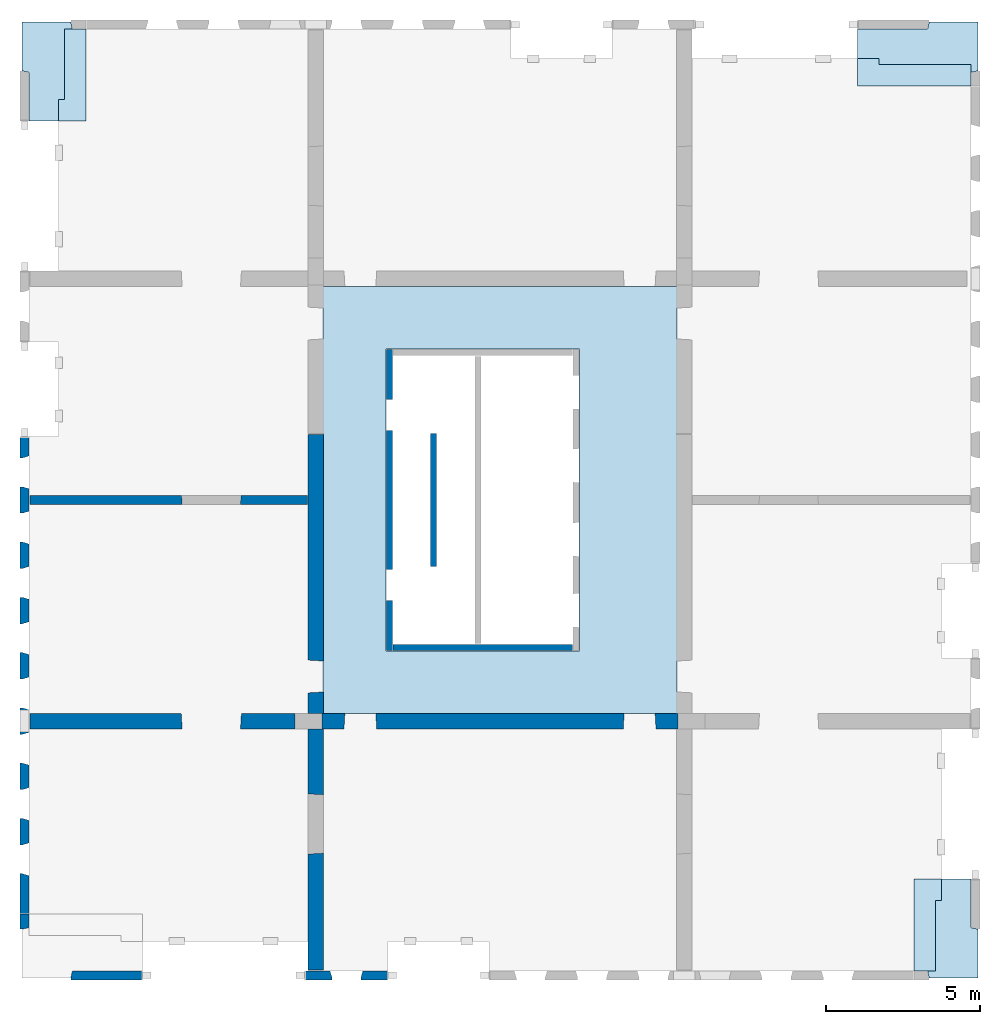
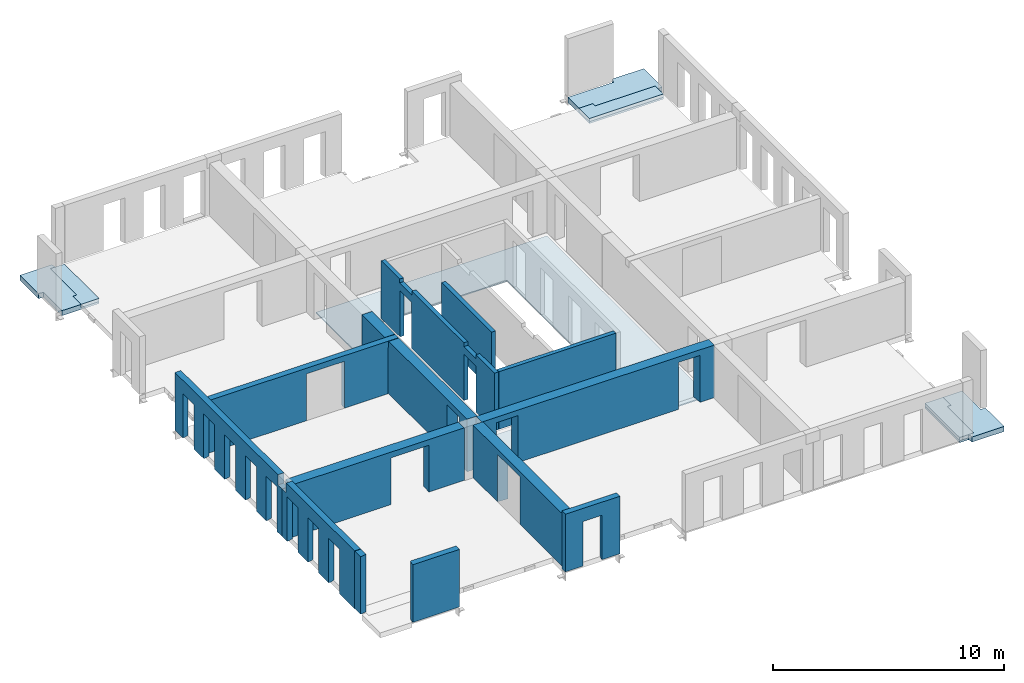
# One storey, part 2 of 4: 13 walls, 7 slabs, 26 openings.
"""IFC2X3 building model written with IfcOpenShell, lengths in millimetres."""

from ifc_helpers import new_model, entity, si_unit, converted_unit, derived_unit, direction, frame, frame_2d, origin, origin_2d_with_axis, place, context, subcontext, project, spatial, polyline, rectangle, outline, extrude, faceted_brep, material, layer, layer_set, layer_usage, type_object, element, save


model = new_model("IFC2X3")

# Units and contexts
model_context = context("Model", 3, precision=0.01, world=origin(), true_north=direction((6.12303176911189e-17, 1.0)))
body_context = subcontext(model_context, "Body", "Model", "MODEL_VIEW")
ifc_project = project(units=[si_unit("LENGTHUNIT", "METRE", prefix="MILLI"), si_unit("AREAUNIT", "SQUARE_METRE"), si_unit("VOLUMEUNIT", "CUBIC_METRE"), converted_unit("PLANEANGLEUNIT", "DEGREE", entity("IfcRatioMeasure", 0.0174532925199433), si_unit("PLANEANGLEUNIT", "RADIAN"), dimensions=[0, 0, 0, 0, 0, 0, 0]), si_unit("MASSUNIT", "GRAM", prefix="KILO"), derived_unit("MASSDENSITYUNIT", [(si_unit("MASSUNIT", "GRAM", prefix="KILO"), 1), (si_unit("LENGTHUNIT", "METRE"), -3)]), si_unit("TIMEUNIT", "SECOND"), si_unit("FREQUENCYUNIT", "HERTZ"), si_unit("THERMODYNAMICTEMPERATUREUNIT", "DEGREE_CELSIUS"), derived_unit("THERMALTRANSMITTANCEUNIT", [(si_unit("MASSUNIT", "GRAM", prefix="KILO"), 1), (si_unit("THERMODYNAMICTEMPERATUREUNIT", "KELVIN"), -1), (si_unit("TIMEUNIT", "SECOND"), -3)]), derived_unit("VOLUMETRICFLOWRATEUNIT", [(si_unit("LENGTHUNIT", "METRE"), 3), (si_unit("TIMEUNIT", "SECOND"), -1)]), si_unit("ELECTRICCURRENTUNIT", "AMPERE"), si_unit("ELECTRICVOLTAGEUNIT", "VOLT"), si_unit("POWERUNIT", "WATT"), si_unit("FORCEUNIT", "NEWTON", prefix="KILO"), si_unit("ILLUMINANCEUNIT", "LUX"), si_unit("LUMINOUSFLUXUNIT", "LUMEN"), si_unit("LUMINOUSINTENSITYUNIT", "CANDELA"), derived_unit("USERDEFINED", [(si_unit("MASSUNIT", "GRAM", prefix="KILO"), -1), (si_unit("LENGTHUNIT", "METRE"), -2), (si_unit("TIMEUNIT", "SECOND"), 3), (si_unit("LUMINOUSFLUXUNIT", "LUMEN"), 1)]), derived_unit("LINEARVELOCITYUNIT", [(si_unit("LENGTHUNIT", "METRE"), 1), (si_unit("TIMEUNIT", "SECOND"), -1)]), si_unit("PRESSUREUNIT", "PASCAL"), derived_unit("USERDEFINED", [(si_unit("LENGTHUNIT", "METRE"), -2), (si_unit("MASSUNIT", "GRAM", prefix="KILO"), 1), (si_unit("TIMEUNIT", "SECOND"), -2)])], contexts=[model_context])

# Site, building, storey
site_placement = place(None, origin())
site = spatial("IfcSite", under=ifc_project, at=site_placement, Name="Default", CompositionType="ELEMENT")
building_placement = place(site_placement, origin())
building = spatial("IfcBuilding", under=site, at=building_placement, Name="niet gebruiken", CompositionType="ELEMENT")
storey_placement = place(building_placement, frame((0.0, 0.0, 63900.0)))
storey = spatial("IfcBuildingStorey", under=building, at=storey_placement, Name="20 twintigste verdieping", CompositionType="ELEMENT", Elevation=63900.0000000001)

# Slabs
ifc_material_1 = material(Name="NLRS_f2_beton prefab")
ifc_layer_1 = layer(ifc_material_1, 270.0)
ifc_layer_set_1 = layer_set([ifc_layer_1], Name="Floor:NLRS_23.22_FL_beton prefab d=270 3D element_gen")
ifc_layer_usage_1 = layer_usage(ifc_layer_set_1, "AXIS3", "POSITIVE", 0.0)
slab_1_placement = place(storey_placement, origin())
element("IfcSlab", 1, at=slab_1_placement, inside=storey, material=ifc_layer_usage_1, Name="Floor:NLRS_23.22_FL_beton prefab d=270 3D element_gen", ObjectType="Floor:NLRS_23.22_FL_beton prefab d=270 3D element_gen", PredefinedType="LANDING", context=body_context, shape_type="SweptSolid", body=[
    extrude(outline(polyline([(-322.675940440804, -982.471394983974), (1267.47139498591, -982.471394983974), (1267.47139498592, 607.675940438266), (1034.47139498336, 655.152429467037), (1034.47139498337, 1100.5286050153), (-1955.52860501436, 1100.52860501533), (-1955.52860501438, -749.471394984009), (-370.152429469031, -749.471394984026), (-322.675940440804, -982.471394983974)])), frame((127169.471394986, 31795.5286050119, -90.0), z_axis=(0.0, 0.0, -1.0), x_axis=(0.0, 1.0, 0.0)), (0.0, 0.0, 1.0), 269.999999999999),
])
ifc_material_2 = material(Name="NLRS_f2_beton ihwg")
ifc_layer_2 = layer(ifc_material_2, 170.0)
ifc_layer_set_2 = layer_set([ifc_layer_2], Name="Floor:NLRS_23.21_FL_beton ihwg d=170_gen")
ifc_layer_usage_2 = layer_usage(ifc_layer_set_2, "AXIS3", "POSITIVE", 0.0)
slab_2_placement = place(storey_placement, origin())
element("IfcSlab", 2, at=slab_2_placement, inside=storey, material=ifc_layer_usage_2, Name="Floor:NLRS_23.21_FL_beton ihwg d=170_gen", ObjectType="Floor:NLRS_23.21_FL_beton ihwg d=170_gen", PredefinedType="FLOOR", context=body_context, shape_type="SweptSolid", body=[
    extrude(outline(polyline([(-1230.0, -366.666666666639), (-530.0, -366.666666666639), (-530.0, -166.66666666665), (1760.0, -166.666666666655), (1760.0, 533.333333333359), (-1230.0, 533.333333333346), (-1230.0, -366.666666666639)])), frame((127736.666666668, 31070.0, -90.0), z_axis=(0.0, 0.0, -1.0), x_axis=(0.0, 1.0, 0.0)), (0.0, 0.0, 1.0), 169.999999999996),
])
ifc_layer_usage_3 = layer_usage(ifc_layer_set_1, "AXIS3", "POSITIVE", 0.0)
slab_3_placement = place(storey_placement, origin())
element("IfcSlab", 3, at=slab_3_placement, inside=storey, material=ifc_layer_usage_3, Name="Floor:NLRS_23.22_FL_beton prefab d=270 3D element_gen", ObjectType="Floor:NLRS_23.22_FL_beton prefab d=270 3D element_gen", PredefinedType="LANDING", context=body_context, shape_type="SweptSolid", body=[
    extrude(outline(polyline([(-1034.47139498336, -1100.52860501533), (1955.52860501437, -1100.52860501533), (1955.52860501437, 749.471394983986), (370.152429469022, 749.471394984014), (322.675940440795, 982.471394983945), (-1267.47139498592, 982.471394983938), (-1267.47139498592, -607.675940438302), (-1034.47139498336, -655.152429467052), (-1034.47139498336, -1100.52860501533)])), frame((156330.528605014, 3204.47139498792, -90.0), z_axis=(0.0, 0.0, -1.0), x_axis=(0.0, 1.0, 0.0)), (0.0, 0.0, 1.0), 269.999999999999),
])
ifc_layer_usage_4 = layer_usage(ifc_layer_set_2, "AXIS3", "POSITIVE", 0.0)
slab_4_placement = place(storey_placement, origin())
element("IfcSlab", 4, at=slab_4_placement, inside=storey, material=ifc_layer_usage_4, Name="Floor:NLRS_23.21_FL_beton ihwg d=170_gen", ObjectType="Floor:NLRS_23.21_FL_beton ihwg d=170_gen", PredefinedType="FLOOR", context=body_context, shape_type="SweptSolid", body=[
    extrude(outline(polyline([(-1760.0, -533.33333333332), (1230.0, -533.33333333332), (1230.0, 366.666666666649), (530.0, 366.666666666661), (530.0, 166.666666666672), (-1760.0, 166.666666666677), (-1760.0, -533.33333333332)])), frame((155763.333333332, 3930.0, -90.0), z_axis=(0.0, 0.0, -1.0), x_axis=(0.0, 1.0, 0.0)), (0.0, 0.0, 1.0), 169.999999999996),
])
ifc_layer_usage_5 = layer_usage(ifc_layer_set_1, "AXIS3", "POSITIVE", 0.0)
slab_5_placement = place(storey_placement, origin())
element("IfcSlab", 5, at=slab_5_placement, inside=storey, material=ifc_layer_usage_5, Name="Floor:NLRS_23.22_FL_beton prefab d=270 3D element_gen", ObjectType="Floor:NLRS_23.22_FL_beton prefab d=270 3D element_gen", PredefinedType="LANDING", context=body_context, shape_type="SweptSolid", body=[
    extrude(outline(polyline([(-1100.52860501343, -2480.52860501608), (749.471394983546, -2480.52860501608), (749.471394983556, -195.152429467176), (982.471394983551, -147.675940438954), (982.471394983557, 1442.47139498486), (-607.675940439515, 1442.47139498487), (-655.152429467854, 1209.47139498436), (-1100.52860501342, 1209.47139498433), (-1100.52860501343, -2480.52860501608)])), frame((155870.528605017, 32080.5286050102, -90.0), z_axis=(0.0, 0.0, -1.0), x_axis=(0.0, 1.0, 0.0)), (0.0, 0.0, 1.0), 269.999999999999),
])
ifc_layer_usage_6 = layer_usage(ifc_layer_set_2, "AXIS3", "POSITIVE", 0.0)
slab_6_placement = place(storey_placement, origin())
element("IfcSlab", 6, at=slab_6_placement, inside=storey, material=ifc_layer_usage_6, Name="Floor:NLRS_23.21_FL_beton ihwg d=170_gen", ObjectType="Floor:NLRS_23.21_FL_beton ihwg d=170_gen", PredefinedType="FLOOR", context=body_context, shape_type="SweptSolid", body=[
    extrude(outline(polyline([(-533.333333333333, -1463.33333333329), (366.666666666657, -1463.33333333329), (366.666666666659, -763.333333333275), (166.66666666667, -763.333333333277), (166.666666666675, 2226.66666666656), (-533.333333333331, 2226.66666666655), (-533.333333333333, -1463.33333333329)])), frame((154853.333333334, 31513.3333333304, -90.0), z_axis=(0.0, 0.0, -1.0), x_axis=(0.0, 1.0, 0.0)), (0.0, 0.0, 1.0), 169.999999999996),
])

# Slab, opening
ifc_layer_3 = layer(ifc_material_1, 60.0)
ifc_layer_set_3 = layer_set([ifc_layer_3], Name="Floor:NLRS_23.21_FL_breedplaat d=60_gen")
ifc_layer_usage_7 = layer_usage(ifc_layer_set_3, "AXIS3", "POSITIVE", 0.0)
slab_7_placement = place(storey_placement, frame((135990.0, 10540.0, -320.0)))
slab_7 = element("IfcSlab", 7, at=slab_7_placement, inside=storey, material=ifc_layer_usage_7, Name="Floor:NLRS_23.21_FL_breedplaat d=60_gen", ObjectType="Floor:NLRS_23.21_FL_breedplaat d=60_gen", PredefinedType="FLOOR", context=body_context, shape_type="SweptSolid", body=[
    extrude(rectangle(XDim=13919.9999999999, YDim=11520.0, at=frame_2d((0.0, 0.0), x_axis=(0.0, -1.0))), frame((5760.0, 6960.0, 60.0), z_axis=(0.0, 0.0, -1.0), x_axis=(-1.0, 0.0, 0.0)), (0.0, 0.0, 1.0), 60.0000000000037),
])
opening_1_placement = place(slab_7_placement, frame((5200.0, 6960.0, 60.0)))
element("IfcOpeningElement", 8, at=opening_1_placement, cuts=slab_7, Name="Floor:NLRS_23.21_FL_breedplaat d=60_gen:2", ObjectType="Opening", context=body_context, shape_type="SweptSolid", body=[
    extrude(rectangle(XDim=9820.0, YDim=6299.99999999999, at=origin_2d_with_axis()), frame((0.0, 0.0, 0.0), z_axis=(0.0, 0.0, -1.0), x_axis=(0.0, -1.0, 0.0)), (0.0, 0.0, 1.0), 60.0000000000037),
])

# Wall, openings
ifc_layer_4 = layer(ifc_material_1, 200.0)
ifc_layer_set_4 = layer_set([ifc_layer_4], Name="Basic Wall:NLRS_22.21_WA_beton prefab d=200_gen")
ifc_layer_usage_8 = layer_usage(ifc_layer_set_4, "AXIS2", "NEGATIVE", 100.0)
wall_type_1 = type_object("IfcWallType", Name="Basic Wall:NLRS_22.21_WA_beton prefab d=200_gen", PredefinedType="STANDARD", material=ifc_layer_set_4)
wall_1_placement = place(storey_placement, frame((138150.0, 22400.0, -50.0), z_axis=(0.0, 0.0, 1.0), x_axis=(0.0, -1.0, 0.0)))
wall_1 = element("IfcWallStandardCase", 9, at=wall_1_placement, inside=storey, type_object=wall_type_1, material=ifc_layer_usage_8, Name="Basic Wall:NLRS_22.21_WA_beton prefab d=200_gen", ObjectType="Basic Wall:NLRS_22.21_WA_beton prefab d=200_gen", context=body_context, shape_type="SweptSolid", body=[
    extrude(rectangle(XDim=9800.0, YDim=199.999999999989, at=frame_2d((4900.0, 3.76587649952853e-13), x_axis=(-1.0, 0.0))), origin(), (0.0, 0.0, 1.0), 3040.0),
])
opening_2_placement = place(wall_1_placement, origin())
element("IfcOpeningElement", 10, at=opening_2_placement, cuts=wall_1, Name="Basic Wall:NLRS_22.21_WA_beton prefab d=200_gen", ObjectType="Opening", context=body_context, shape_type="SweptSolid", body=[
    extrude(rectangle(XDim=199.999999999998, YDim=1044.0, at=frame_2d((4.33431068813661e-12, 0.0), x_axis=(1.0, 0.0))), frame((7672.0, -100.0, 2940.0), z_axis=(0.0, 1.0, 0.0), x_axis=(0.0, 0.0, -1.0)), (0.0, 0.0, 1.0), 199.999999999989),
])
opening_3_placement = place(wall_1_placement, origin())
element("IfcOpeningElement", 11, at=opening_3_placement, cuts=wall_1, Name="Basic Wall:NLRS_22.21_WA_beton prefab d=200_gen", ObjectType="Opening", context=body_context, shape_type="SweptSolid", body=[
    extrude(rectangle(XDim=199.999999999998, YDim=1044.0, at=frame_2d((4.33431068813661e-12, 2.1600499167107e-12), x_axis=(1.0, 0.0))), frame((2128.0, -100.0, 2940.0), z_axis=(0.0, 1.0, 0.0), x_axis=(0.0, 0.0, -1.0)), (0.0, 0.0, 1.0), 199.999999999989),
])
opening_4_placement = place(wall_1_placement, origin())
element("IfcOpeningElement", 12, at=opening_4_placement, cuts=wall_1, Name="Basic Wall:NLRS_22.21_WA_beton prefab d=200_gen", ObjectType="Opening", context=body_context, shape_type="SweptSolid", body=[
    extrude(rectangle(XDim=2435.00000000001, YDim=1015.99999999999, at=frame_2d((-4.32009983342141e-12, 1.10844666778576e-12), x_axis=(1.0, 0.0))), frame((7672.0, -100.0, 1217.50000000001), z_axis=(0.0, 1.0, 0.0), x_axis=(0.0, 0.0, -1.0)), (0.0, 0.0, 1.0), 199.999999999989),
])
opening_5_placement = place(wall_1_placement, origin())
element("IfcOpeningElement", 13, at=opening_5_placement, cuts=wall_1, Name="Basic Wall:NLRS_22.21_WA_beton prefab d=200_gen", ObjectType="Opening", context=body_context, shape_type="SweptSolid", body=[
    extrude(rectangle(XDim=2435.00000000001, YDim=1015.99999999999, at=frame_2d((-4.32009983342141e-12, -2.18847162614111e-12), x_axis=(1.0, 0.0))), frame((2128.0, -100.0, 1217.50000000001), z_axis=(0.0, 1.0, 0.0), x_axis=(0.0, 0.0, -1.0)), (0.0, 0.0, 1.0), 199.999999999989),
])

# Walls
ifc_layer_usage_9 = layer_usage(ifc_layer_set_4, "AXIS2", "NEGATIVE", 100.0)
wall_2_placement = place(storey_placement, frame((139590.0, 19660.0, -50.0), z_axis=(0.0, 0.0, 1.0), x_axis=(0.0, -1.0, 0.0)))
element("IfcWallStandardCase", 14, at=wall_2_placement, inside=storey, type_object=wall_type_1, material=ifc_layer_usage_9, Name="Basic Wall:NLRS_22.21_WA_beton prefab d=200_gen", ObjectType="Basic Wall:NLRS_22.21_WA_beton prefab d=200_gen", context=body_context, shape_type="SweptSolid", body=[
    extrude(rectangle(XDim=4320.00000000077, YDim=199.999999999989, at=frame_2d((2160.00000000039, 0.0), x_axis=(-1.0, 0.0))), origin(), (0.0, 0.0, 1.0), 3040.0),
])
ifc_layer_usage_10 = layer_usage(ifc_layer_set_4, "AXIS2", "NEGATIVE", 100.0)
wall_3_placement = place(storey_placement, frame((138270.0, 12700.0, -50.0)))
element("IfcWallStandardCase", 15, at=wall_3_placement, inside=storey, type_object=wall_type_1, material=ifc_layer_usage_10, Name="Basic Wall:NLRS_22.21_WA_beton prefab d=200_gen", ObjectType="Basic Wall:NLRS_22.21_WA_beton prefab d=200_gen", context=body_context, shape_type="SweptSolid", body=[
    extrude(rectangle(XDim=5839.99999999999, YDim=199.999999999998, at=frame_2d((2919.99999999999, -6.82121026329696e-13), x_axis=(-1.0, 0.0))), origin(), (0.0, 0.0, 1.0), 3040.0),
])

# Wall, openings
ifc_layer_5 = layer(ifc_material_1, 300.0)
ifc_layer_set_5 = layer_set([ifc_layer_5], Name="Basic Wall:NLRS_22.21_WA_beton prefab d=300_gen")
ifc_layer_usage_11 = layer_usage(ifc_layer_set_5, "AXIS2", "NEGATIVE", 150.0)
wall_type_2 = type_object("IfcWallType", Name="Basic Wall:NLRS_22.21_WA_beton prefab d=300_gen", PredefinedType="STANDARD", material=ifc_layer_set_5)
wall_4_placement = place(storey_placement, frame((126440.0, 17500.0, -70.0)))
wall_4 = element("IfcWallStandardCase", 16, at=wall_4_placement, inside=storey, type_object=wall_type_2, material=ifc_layer_usage_11, Name="Basic Wall:NLRS_22.21_WA_beton prefab d=300_gen", ObjectType="Basic Wall:NLRS_22.21_WA_beton prefab d=300_gen", context=body_context, shape_type="SweptSolid", body=[
    extrude(rectangle(XDim=9559.99999999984, YDim=300.000000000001, at=frame_2d((4779.99999999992, 4.68958205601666e-13), x_axis=(-1.0, 0.0))), origin(), (0.0, 0.0, 1.0), 2769.99999999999),
])
opening_6_placement = place(wall_4_placement, frame((4942.0, -150.0, 0.0)))
element("IfcOpeningElement", 17, at=opening_6_placement, cuts=wall_4, Name="Basic Wall:NLRS_22.21_WA_beton prefab d=300_gen", ObjectType="Opening", context=body_context, shape_type="Brep", body=[
    faceted_brep([(1918.0, 0.0, 2470.0), (18.0, 0.0, 2470.0), (18.0, 0.0, 0.0), (1918.0, 0.0, 0.0), (1936.0, 300.0, 2488.0), (1936.0, 300.0, 0.0), (0.0, 300.0, 0.0), (0.0, 300.0, 2488.0)], [[[0, 1, 2, 3]], [[4, 5, 6, 7]], [[4, 7, 1, 0]], [[7, 6, 2, 1]], [[6, 5, 3, 2]], [[5, 4, 0, 3]]]),
])
opening_7_placement = place(wall_4_placement, origin())
element("IfcOpeningElement", 18, at=opening_7_placement, cuts=wall_4, Name="Basic Wall:NLRS_22.21_WA_beton prefab d=300_gen", ObjectType="Opening", context=body_context, shape_type="SweptSolid", body=[
    extrude(rectangle(XDim=2440.0, YDim=520.00000000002, at=frame_2d((0.0, 0.0), x_axis=(0.0, 1.0))), frame((9300.0, 150.0, 1220.0), z_axis=(0.0, -1.0, 0.0), x_axis=(1.0, 0.0, 0.0)), (0.0, 0.0, 1.0), 300.0),
])

ifc_layer_6 = layer(ifc_material_1, 500.0)
ifc_layer_set_6 = layer_set([ifc_layer_6], Name="Basic Wall:NLRS_22.21_WA_beton prefab d=500_gen")
ifc_layer_usage_12 = layer_usage(ifc_layer_set_6, "AXIS2", "NEGATIVE", 250.0)
wall_type_3 = type_object("IfcWallType", Name="Basic Wall:NLRS_22.21_WA_beton prefab d=500_gen", PredefinedType="STANDARD", material=ifc_layer_set_6)
wall_5_placement = place(storey_placement, frame((135950.003540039, 10300.0, -70.0)))
wall_5 = element("IfcWallStandardCase", 19, at=wall_5_placement, inside=storey, type_object=wall_type_3, material=ifc_layer_usage_12, Name="Basic Wall:NLRS_22.21_WA_beton prefab d=500_gen", ObjectType="Basic Wall:NLRS_22.21_WA_beton prefab d=500_gen", context=body_context, shape_type="SweptSolid", body=[
    extrude(rectangle(XDim=11599.9964599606, YDim=499.999999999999, at=frame_2d((5799.99822998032, 1.4210854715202e-13), x_axis=(-1.0, 0.0))), origin(), (0.0, 0.0, 1.0), 2770.00000000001),
])
opening_8_placement = place(wall_5_placement, frame((719.996459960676, -250.0, 0.0)))
element("IfcOpeningElement", 20, at=opening_8_placement, cuts=wall_5, Name="Basic Wall:NLRS_22.21_WA_beton prefab d=500_gen", ObjectType="Opening", context=body_context, shape_type="Brep", body=[
    faceted_brep([(0.0, 0.0, 2478.0), (30.0, 500.0, 2448.0), (30.0, 500.0, 0.0), (0.0, 0.0, 0.0), (1036.0, 500.0, 0.0), (1066.0, 0.0, 0.0), (1036.0, 500.0, 2448.0), (1066.0, 0.0, 2478.0)], [[[0, 1, 2, 3]], [[3, 2, 4, 5]], [[6, 4, 2, 1]], [[7, 0, 3, 5]], [[7, 6, 1, 0]], [[5, 4, 6, 7]]]),
])
opening_9_placement = place(wall_5_placement, frame((9813.99645996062, -250.0, 0.0)))
element("IfcOpeningElement", 21, at=opening_9_placement, cuts=wall_5, Name="Basic Wall:NLRS_22.21_WA_beton prefab d=500_gen", ObjectType="Opening", context=body_context, shape_type="Brep", body=[
    faceted_brep([(0.0, 0.0, 2478.0), (30.0, 500.0, 2448.0), (30.0, 500.0, 0.0), (0.0, 0.0, 0.0), (1036.0, 500.0, 0.0), (1066.0, 0.0, 0.0), (1036.0, 500.0, 2448.0), (1066.0, 0.0, 2478.0)], [[[0, 1, 2, 3]], [[3, 2, 4, 5]], [[6, 4, 2, 1]], [[7, 0, 3, 5]], [[7, 6, 1, 0]], [[5, 4, 6, 7]]]),
])

# Wall, opening
ifc_layer_usage_13 = layer_usage(ifc_layer_set_6, "AXIS2", "NEGATIVE", 250.0)
wall_6_placement = place(storey_placement, frame((126440.0, 10300.0, -70.0)))
wall_6 = element("IfcWallStandardCase", 22, at=wall_6_placement, inside=storey, type_object=wall_type_3, material=ifc_layer_usage_13, Name="Basic Wall:NLRS_22.21_WA_beton prefab d=500_gen", ObjectType="Basic Wall:NLRS_22.21_WA_beton prefab d=500_gen", context=body_context, shape_type="SweptSolid", body=[
    extrude(rectangle(XDim=8630.00354003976, YDim=499.999999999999, at=frame_2d((4315.00177001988, -2.8421709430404e-13), x_axis=(-1.0, 0.0))), origin(), (0.0, 0.0, 1.0), 2769.99999999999),
])
opening_10_placement = place(wall_6_placement, frame((4930.0, -250.0, 0.0)))
element("IfcOpeningElement", 23, at=opening_10_placement, cuts=wall_6, Name="Basic Wall:NLRS_22.21_WA_beton prefab d=500_gen", ObjectType="Opening", context=body_context, shape_type="Brep", body=[
    faceted_brep([(1930.0, 0.0, 2470.0), (30.0, 0.0, 2470.0), (30.0, 0.0, 0.0), (1930.0, 0.0, 0.0), (1960.0, 500.0, 2500.0), (1960.0, 500.0, 0.0), (0.0, 500.0, 0.0), (0.0, 500.0, 2500.0)], [[[0, 1, 2, 3]], [[4, 5, 6, 7]], [[4, 7, 1, 0]], [[7, 6, 2, 1]], [[6, 5, 3, 2]], [[5, 4, 0, 3]]]),
])

# Wall, openings
ifc_layer_usage_14 = layer_usage(ifc_layer_set_6, "AXIS2", "NEGATIVE", 250.0)
wall_7_placement = place(storey_placement, frame((135750.0, 19640.0, -70.0), z_axis=(0.0, 0.0, 1.0), x_axis=(0.0, -1.0, 0.0)))
wall_7 = element("IfcWallStandardCase", 24, at=wall_7_placement, inside=storey, type_object=wall_type_3, material=ifc_layer_usage_14, Name="Basic Wall:NLRS_22.21_WA_beton prefab d=500_gen", ObjectType="Basic Wall:NLRS_22.21_WA_beton prefab d=500_gen", context=body_context, shape_type="SweptSolid", body=[
    extrude(rectangle(XDim=9089.98844925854, YDim=499.99999999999, at=frame_2d((4544.99422462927, -7.105427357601e-14), x_axis=(-1.0, 0.0))), origin(), (0.0, 0.0, 1.0), 2770.00000000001),
])
opening_11_placement = place(wall_7_placement, frame((8420.0, -250.0, 0.0)))
element("IfcOpeningElement", 25, at=opening_11_placement, cuts=wall_7, Name="Basic Wall:NLRS_22.21_WA_beton prefab d=500_gen", ObjectType="Opening", context=body_context, shape_type="Brep", body=[
    faceted_brep([(-1066.0, 0.0, 2478.0), (-1036.0, 500.0, 2448.0), (-1036.0, 500.0, 0.0), (-1066.0, 0.0, 0.0), (-30.0, 500.0, 0.0), (0.0, 0.0, 0.0), (-30.0, 500.0, 2448.0), (0.0, 0.0, 2478.0)], [[[0, 1, 2, 3]], [[3, 2, 4, 5]], [[6, 4, 2, 1]], [[7, 0, 3, 5]], [[7, 6, 1, 0]], [[5, 4, 6, 7]]]),
])
opening_12_placement = place(wall_7_placement, origin())
element("IfcOpeningElement", 26, at=opening_12_placement, cuts=wall_7, Name="Basic Wall:NLRS_22.21_WA_beton prefab d=500_gen", ObjectType="Opening", context=body_context, shape_type="SweptSolid", body=[
    extrude(rectangle(XDim=350.000000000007, YDim=339.999999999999, at=frame_2d((-1.08002495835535e-12, 0.0), x_axis=(0.0, 1.0))), frame((2140.0, 250.0, 2595.0), z_axis=(0.0, -1.0, 0.0), x_axis=(-1.0, 0.0, 0.0)), (0.0, 0.0, 1.0), 500.0),
])

# Wall, opening
ifc_layer_usage_15 = layer_usage(ifc_layer_set_6, "AXIS2", "NEGATIVE", 250.0)
wall_8_placement = place(storey_placement, frame((135750.0, 10050.0115507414, -70.0), z_axis=(0.0, 0.0, 1.0), x_axis=(0.0, -1.0, 0.0)))
wall_8 = element("IfcWallStandardCase", 27, at=wall_8_placement, inside=storey, type_object=wall_type_3, material=ifc_layer_usage_15, Name="Basic Wall:NLRS_22.21_WA_beton prefab d=500_gen", ObjectType="Basic Wall:NLRS_22.21_WA_beton prefab d=500_gen", context=body_context, shape_type="SweptSolid", body=[
    extrude(rectangle(XDim=7860.01155074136, YDim=499.99999999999, at=frame_2d((3930.00577537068, -3.12638803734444e-13), x_axis=(-1.0, 0.0))), origin(), (0.0, 0.0, 1.0), 2769.99999999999),
])
opening_13_placement = place(wall_8_placement, frame((4080.0115507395, -250.0, 0.0)))
element("IfcOpeningElement", 28, at=opening_13_placement, cuts=wall_8, Name="Basic Wall:NLRS_22.21_WA_beton prefab d=500_gen", ObjectType="Opening", context=body_context, shape_type="Brep", body=[
    faceted_brep([(-30.0, 500.0, 2470.0), (-30.0, 500.0, 0.0), (-1930.0, 500.0, 0.0), (-1930.0, 500.0, 2470.0), (0.0, 0.0, 2500.0), (-1960.0, 0.0, 2500.0), (-1960.0, 0.0, 0.0), (0.0, 0.0, 0.0)], [[[0, 1, 2, 3]], [[4, 5, 6, 7]], [[4, 0, 3, 5]], [[5, 3, 2, 6]], [[6, 2, 1, 7]], [[7, 1, 0, 4]]]),
])

ifc_layer_7 = layer(ifc_material_1, 300.0)
ifc_layer_set_7 = layer_set([ifc_layer_7], Name="Basic Wall:NLRS_21.21_WA_beton prefab d=300/320_gen")
ifc_layer_usage_16 = layer_usage(ifc_layer_set_7, "AXIS2", "NEGATIVE", 150.0)
wall_type_4 = type_object("IfcWallType", Name="Basic Wall:NLRS_21.21_WA_beton prefab d=300/320_gen", PredefinedType="STANDARD", material=ifc_layer_set_7)
wall_9_placement = place(storey_placement, frame((138110.0, 2020.0, -50.0), z_axis=(0.0, 0.0, 1.0), x_axis=(-1.0, 0.0, 0.0)))
wall_9 = element("IfcWallStandardCase", 29, at=wall_9_placement, inside=storey, type_object=wall_type_4, material=ifc_layer_usage_16, Name="Basic Wall:NLRS_21.21_WA_beton prefab d=300/320_gen", ObjectType="Basic Wall:NLRS_21.21_WA_beton prefab d=300/320_gen", context=body_context, shape_type="SweptSolid", body=[
    extrude(rectangle(XDim=2720.00000000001, YDim=300.0, at=frame_2d((1360.0, -8.5265128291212e-14), x_axis=(-1.0, 0.0))), origin(), (0.0, 0.0, 1.0), 3040.0),
])
opening_14_placement = place(wall_9_placement, frame((1895.0, 150.0, -20.0)))
element("IfcOpeningElement", 30, at=opening_14_placement, cuts=wall_9, Name="Basic Wall:NLRS_21.21_WA_beton prefab d=300/320_gen", ObjectType="Opening", context=body_context, shape_type="Brep", body=[
    faceted_brep([(-1070.0, -300.0, 2405.0), (-1070.0, -300.0, 0.0), (0.0, -300.0, 0.0), (0.0, -300.0, 2405.0), (-65.0, -81.0, 2370.0), (-1005.0, -81.0, 2370.0), (-65.0, -81.0, 0.0), (-1005.0, -81.0, 0.0), (-1005.0, 0.0, 0.0), (-65.0, 0.0, 0.0), (-1005.0, 0.0, 2370.0), (-65.0, 0.0, 2370.0)], [[[0, 1, 2, 3]], [[3, 4, 5, 0]], [[2, 6, 4, 3]], [[1, 7, 8, 9, 6, 2]], [[0, 5, 7, 1]], [[10, 11, 9, 8]], [[10, 5, 4, 11]], [[11, 4, 6, 9]], [[8, 7, 5, 10]]]),
])

# Wall, openings
ifc_layer_usage_17 = layer_usage(ifc_layer_set_7, "AXIS2", "NEGATIVE", 150.0)
wall_10_placement = place(storey_placement, frame((126270.0, 4040.0, -50.0), z_axis=(0.0, 0.0, 1.0), x_axis=(0.0, 1.0, 0.0)))
wall_10 = element("IfcWallStandardCase", 31, at=wall_10_placement, inside=storey, type_object=wall_type_4, material=ifc_layer_usage_17, Name="Basic Wall:NLRS_21.21_WA_beton prefab d=300/320_gen", ObjectType="Basic Wall:NLRS_21.21_WA_beton prefab d=300/320_gen", context=body_context, shape_type="SweptSolid", body=[
    extrude(rectangle(XDim=6249.99999999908, YDim=300.000000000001, at=frame_2d((3124.99999999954, 0.0), x_axis=(-1.0, 0.0))), origin(), (0.0, 0.0, 1.0), 3039.99999999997),
])
opening_15_placement = place(wall_10_placement, frame((1225.0, 150.0, -20.0)))
element("IfcOpeningElement", 32, at=opening_15_placement, cuts=wall_10, Name="Basic Wall:NLRS_21.21_WA_beton prefab d=300/320_gen", ObjectType="Opening", context=body_context, shape_type="Brep", body=[
    faceted_brep([(0.0, -300.0, 2405.0), (0.0, -300.0, 0.0), (1070.0, -300.0, 0.0), (1070.0, -300.0, 2405.0), (1005.0, -81.0, 2370.0), (65.0, -81.0, 2370.0), (1005.0, -81.0, 0.0), (65.0, -81.0, 0.0), (65.0, 0.0, 0.0), (1005.0, 0.0, 0.0), (65.0, 0.0, 2370.0), (1005.0, 0.0, 2370.0)], [[[0, 1, 2, 3]], [[3, 4, 5, 0]], [[2, 6, 4, 3]], [[1, 7, 8, 9, 6, 2]], [[0, 5, 7, 1]], [[10, 11, 9, 8]], [[10, 5, 4, 11]], [[11, 4, 6, 9]], [[8, 7, 5, 10]]]),
])
opening_16_placement = place(wall_10_placement, frame((3025.0, 150.0, -20.0)))
element("IfcOpeningElement", 33, at=opening_16_placement, cuts=wall_10, Name="Basic Wall:NLRS_21.21_WA_beton prefab d=300/320_gen", ObjectType="Opening", context=body_context, shape_type="Brep", body=[
    faceted_brep([(0.0, -300.0, 2405.0), (0.0, -300.0, 0.0), (1070.0, -300.0, 0.0), (1070.0, -300.0, 2405.0), (1005.0, -81.0, 2370.0), (65.0, -81.0, 2370.0), (1005.0, -81.0, 0.0), (65.0, -81.0, 0.0), (65.0, 0.0, 0.0), (1005.0, 0.0, 0.0), (65.0, 0.0, 2370.0), (1005.0, 0.0, 2370.0)], [[[0, 1, 2, 3]], [[3, 4, 5, 0]], [[2, 6, 4, 3]], [[1, 7, 8, 9, 6, 2]], [[0, 5, 7, 1]], [[10, 11, 9, 8]], [[10, 5, 4, 11]], [[11, 4, 6, 9]], [[8, 7, 5, 10]]]),
])
opening_17_placement = place(wall_10_placement, frame((4825.0, 150.0, -20.0)))
element("IfcOpeningElement", 34, at=opening_17_placement, cuts=wall_10, Name="Basic Wall:NLRS_21.21_WA_beton prefab d=300/320_gen", ObjectType="Opening", context=body_context, shape_type="Brep", body=[
    faceted_brep([(0.0, -300.0, 2405.0), (0.0, -300.0, 0.0), (1070.0, -300.0, 0.0), (1070.0, -300.0, 2405.0), (1005.0, -81.0, 2370.0), (65.0, -81.0, 2370.0), (1005.0, -81.0, 0.0), (65.0, -81.0, 0.0), (65.0, 0.0, 0.0), (1005.0, 0.0, 0.0), (65.0, 0.0, 2370.0), (1005.0, 0.0, 2370.0)], [[[0, 1, 2, 3]], [[3, 4, 5, 0]], [[2, 6, 4, 3]], [[1, 7, 8, 9, 6, 2]], [[0, 5, 7, 1]], [[10, 11, 9, 8]], [[10, 5, 4, 11]], [[11, 4, 6, 9]], [[8, 7, 5, 10]]]),
])
opening_18_placement = place(wall_10_placement, origin())
element("IfcOpeningElement", 35, at=opening_18_placement, cuts=wall_10, Name="Basic Wall:NLRS_21.21_WA_beton prefab d=300/320_gen", ObjectType="Opening", context=body_context, shape_type="SweptSolid", body=[
    extrude(rectangle(XDim=534.99999999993, YDim=344.999999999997, at=frame_2d((0.0, 1.08002495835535e-12), x_axis=(1.0, 0.0))), frame((6077.49999999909, 150.0, 2772.5), z_axis=(0.0, -1.0, 0.0), x_axis=(0.0, 0.0, 1.0)), (0.0, 0.0, 1.0), 300.0),
])

# Wall, opening
ifc_layer_usage_18 = layer_usage(ifc_layer_set_7, "AXIS2", "NEGATIVE", 150.0)
wall_11_placement = place(storey_placement, frame((130110.0, 2020.0, -50.0), z_axis=(0.0, 0.0, 1.0), x_axis=(-1.0, 0.0, 0.0)))
wall_11 = element("IfcWallStandardCase", 36, at=wall_11_placement, inside=storey, type_object=wall_type_4, material=ifc_layer_usage_18, Name="Basic Wall:NLRS_21.21_WA_beton prefab d=300/320_gen", ObjectType="Basic Wall:NLRS_21.21_WA_beton prefab d=300/320_gen", context=body_context, shape_type="SweptSolid", body=[
    extrude(rectangle(XDim=2330.00000000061, YDim=300.0, at=frame_2d((1165.00000000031, -5.6843418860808e-14), x_axis=(-1.0, 0.0))), origin(), (0.0, 0.0, 1.0), 3040.0),
])
opening_19_placement = place(wall_11_placement, frame((2330.0, 69.0, 0.0)))
element("IfcOpeningElement", 37, at=opening_19_placement, cuts=wall_11, Name="Basic Wall:NLRS_21.21_WA_beton prefab d=300/320_gen", ObjectType="Opening", context=body_context, shape_type="Brep", body=[
    faceted_brep([(0.0, -319.0, 3040.0), (0.0, 0.0, 3040.0), (-65.0, -319.0, 3040.0), (0.0, -319.0, 0.0), (-65.0, -319.0, 0.0), (0.0, 0.0, 0.0)], [[[0, 1, 2]], [[3, 4, 5]], [[2, 4, 3, 0]], [[0, 3, 5, 1]], [[1, 5, 4, 2]]]),
])

ifc_layer_usage_19 = layer_usage(ifc_layer_set_7, "AXIS2", "NEGATIVE", 150.0)
wall_12_placement = place(storey_placement, frame((126270.0, 3530.0, -50.0), z_axis=(0.0, 0.0, 1.0), x_axis=(0.0, 1.0, 0.0)))
wall_12 = element("IfcWallStandardCase", 38, at=wall_12_placement, inside=storey, type_object=wall_type_4, material=ifc_layer_usage_19, Name="Basic Wall:NLRS_21.21_WA_beton prefab d=300/320_gen", ObjectType="Basic Wall:NLRS_21.21_WA_beton prefab d=300/320_gen", context=body_context, shape_type="SweptSolid", body=[
    extrude(rectangle(XDim=489.999999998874, YDim=300.000000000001, at=frame_2d((244.999999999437, -3.25428572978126e-12), x_axis=(-1.0, 0.0))), origin(), (0.0, 0.0, 1.0), 3040.0),
])
opening_20_placement = place(wall_12_placement, frame((-1.97405825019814e-09, 69.0, 0.0)))
element("IfcOpeningElement", 39, at=opening_20_placement, cuts=wall_12, Name="Basic Wall:NLRS_21.21_WA_beton prefab d=300/320_gen", ObjectType="Opening", context=body_context, shape_type="Brep", body=[
    faceted_brep([(0.0, -319.0, 3040.0), (65.0, -319.0, 3040.0), (0.0, 0.0, 3040.0), (0.0, -319.0, 0.0), (0.0, 0.0, 0.0), (65.0, -319.0, 0.0)], [[[0, 1, 2]], [[3, 4, 5]], [[1, 0, 3, 5]], [[0, 2, 4, 3]], [[2, 1, 5, 4]]]),
])

# Wall, openings
ifc_layer_usage_20 = layer_usage(ifc_layer_set_7, "AXIS2", "NEGATIVE", 150.0)
wall_13_placement = place(storey_placement, frame((126270.0, 10310.0, -50.0), z_axis=(0.0, 0.0, 1.0), x_axis=(0.0, 1.0, 0.0)))
wall_13 = element("IfcWallStandardCase", 40, at=wall_13_placement, inside=storey, type_object=wall_type_4, material=ifc_layer_usage_20, Name="Basic Wall:NLRS_21.21_WA_beton prefab d=300/320_gen", ObjectType="Basic Wall:NLRS_21.21_WA_beton prefab d=300/320_gen", context=body_context, shape_type="SweptSolid", body=[
    extrude(rectangle(XDim=9250.00000000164, YDim=300.000000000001, at=frame_2d((4625.00000000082, 0.0), x_axis=(-1.0, 0.0))), origin(), (0.0, 0.0, 1.0), 3040.0),
])
opening_21_placement = place(wall_13_placement, frame((7555.0, 150.0, -20.0)))
element("IfcOpeningElement", 41, at=opening_21_placement, cuts=wall_13, Name="Basic Wall:NLRS_21.21_WA_beton prefab d=300/320_gen", ObjectType="Opening", context=body_context, shape_type="Brep", body=[
    faceted_brep([(0.0, -300.0, 2405.0), (0.0, -300.0, 0.0), (1070.0, -300.0, 0.0), (1070.0, -300.0, 2405.0), (1005.0, -81.0, 2370.0), (65.0, -81.0, 2370.0), (1005.0, -81.0, 0.0), (65.0, -81.0, 0.0), (65.0, 0.0, 0.0), (1005.0, 0.0, 0.0), (65.0, 0.0, 2370.0), (1005.0, 0.0, 2370.0)], [[[0, 1, 2, 3]], [[3, 4, 5, 0]], [[2, 6, 4, 3]], [[1, 7, 8, 9, 6, 2]], [[0, 5, 7, 1]], [[10, 11, 9, 8]], [[10, 5, 4, 11]], [[11, 4, 6, 9]], [[8, 7, 5, 10]]]),
])
opening_22_placement = place(wall_13_placement, frame((3955.0, 150.0, -20.0)))
element("IfcOpeningElement", 42, at=opening_22_placement, cuts=wall_13, Name="Basic Wall:NLRS_21.21_WA_beton prefab d=300/320_gen", ObjectType="Opening", context=body_context, shape_type="Brep", body=[
    faceted_brep([(0.0, -300.0, 2405.0), (0.0, -300.0, 0.0), (1070.0, -300.0, 0.0), (1070.0, -300.0, 2405.0), (1005.0, -81.0, 2370.0), (65.0, -81.0, 2370.0), (1005.0, -81.0, 0.0), (65.0, -81.0, 0.0), (65.0, 0.0, 0.0), (1005.0, 0.0, 0.0), (65.0, 0.0, 2370.0), (1005.0, 0.0, 2370.0)], [[[0, 1, 2, 3]], [[3, 4, 5, 0]], [[2, 6, 4, 3]], [[1, 7, 8, 9, 6, 2]], [[0, 5, 7, 1]], [[10, 11, 9, 8]], [[10, 5, 4, 11]], [[11, 4, 6, 9]], [[8, 7, 5, 10]]]),
])
opening_23_placement = place(wall_13_placement, frame((2155.0, 150.0, -20.0)))
element("IfcOpeningElement", 43, at=opening_23_placement, cuts=wall_13, Name="Basic Wall:NLRS_21.21_WA_beton prefab d=300/320_gen", ObjectType="Opening", context=body_context, shape_type="Brep", body=[
    faceted_brep([(0.0, -300.0, 2405.0), (0.0, -300.0, 0.0), (1070.0, -300.0, 0.0), (1070.0, -300.0, 2405.0), (1005.0, -81.0, 2370.0), (65.0, -81.0, 2370.0), (1005.0, -81.0, 0.0), (65.0, -81.0, 0.0), (65.0, 0.0, 0.0), (1005.0, 0.0, 0.0), (65.0, 0.0, 2370.0), (1005.0, 0.0, 2370.0)], [[[0, 1, 2, 3]], [[3, 4, 5, 0]], [[2, 6, 4, 3]], [[1, 7, 8, 9, 6, 2]], [[0, 5, 7, 1]], [[10, 11, 9, 8]], [[10, 5, 4, 11]], [[11, 4, 6, 9]], [[8, 7, 5, 10]]]),
])
opening_24_placement = place(wall_13_placement, frame((5755.0, 150.0, -20.0)))
element("IfcOpeningElement", 44, at=opening_24_placement, cuts=wall_13, Name="Basic Wall:NLRS_21.21_WA_beton prefab d=300/320_gen", ObjectType="Opening", context=body_context, shape_type="Brep", body=[
    faceted_brep([(0.0, -300.0, 2405.0), (0.0, -300.0, 0.0), (1070.0, -300.0, 0.0), (1070.0, -300.0, 2405.0), (1005.0, -81.0, 2370.0), (65.0, -81.0, 2370.0), (1005.0, -81.0, 0.0), (65.0, -81.0, 0.0), (65.0, 0.0, 0.0), (1005.0, 0.0, 0.0), (65.0, 0.0, 2370.0), (1005.0, 0.0, 2370.0)], [[[0, 1, 2, 3]], [[3, 4, 5, 0]], [[2, 6, 4, 3]], [[1, 7, 8, 9, 6, 2]], [[0, 5, 7, 1]], [[10, 11, 9, 8]], [[10, 5, 4, 11]], [[11, 4, 6, 9]], [[8, 7, 5, 10]]]),
])
opening_25_placement = place(wall_13_placement, frame((355.0, 150.0, -20.0)))
element("IfcOpeningElement", 45, at=opening_25_placement, cuts=wall_13, Name="Basic Wall:NLRS_21.21_WA_beton prefab d=300/320_gen", ObjectType="Opening", context=body_context, shape_type="Brep", body=[
    faceted_brep([(1070.0, -300.0, 2405.0), (0.0, -300.0, 2405.0), (0.0, -300.0, 0.0), (1070.0, -300.0, 0.0), (1005.0, -81.0, 2370.0), (65.0, -81.0, 2370.0), (65.0, -81.0, 0.0), (65.0, 0.0, 0.0), (1005.0, 0.0, 0.0), (1005.0, -81.0, 0.0), (1005.0, 0.0, 2370.0), (65.0, 0.0, 2370.0)], [[[0, 1, 2, 3]], [[1, 0, 4, 5]], [[2, 1, 5, 6]], [[3, 2, 6, 7, 8, 9]], [[0, 3, 9, 4]], [[10, 8, 7, 11]], [[10, 11, 5, 4]], [[11, 7, 6, 5]], [[8, 10, 4, 9]]]),
])
opening_26_placement = place(wall_13_placement, origin())
element("IfcOpeningElement", 46, at=opening_26_placement, cuts=wall_13, Name="Basic Wall:NLRS_21.21_WA_beton prefab d=300/320_gen", ObjectType="Opening", context=body_context, shape_type="SweptSolid", body=[
    extrude(rectangle(XDim=534.999999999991, YDim=345.000000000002, at=frame_2d((1.08002495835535e-12, 4.32009983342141e-12), x_axis=(0.0, 1.0))), frame((172.500000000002, 150.0, 2772.50000000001), z_axis=(0.0, -1.0, 0.0), x_axis=(-1.0, 0.0, 0.0)), (0.0, 0.0, 1.0), 300.0),
])

save(model, "model.ifc")
